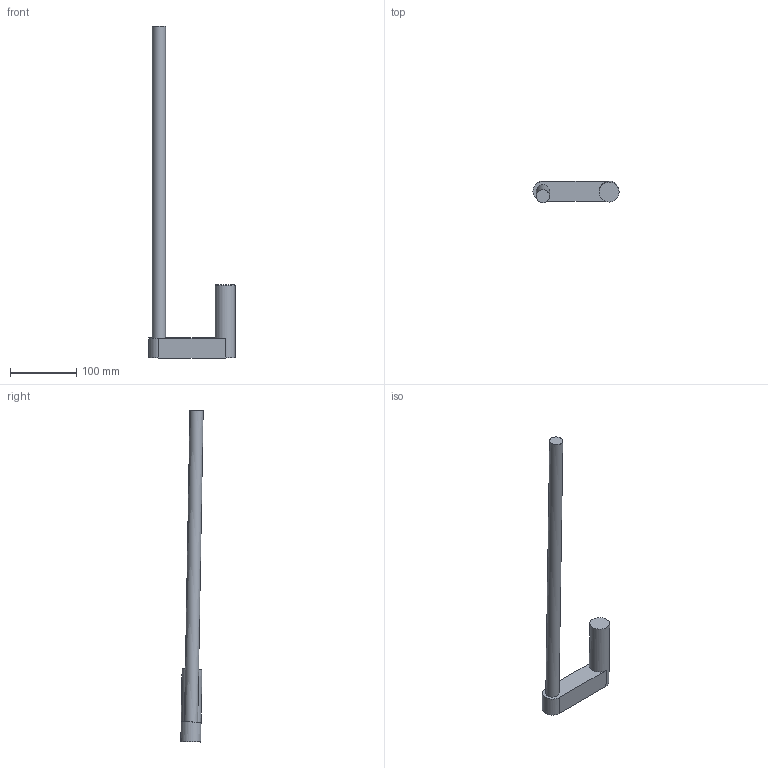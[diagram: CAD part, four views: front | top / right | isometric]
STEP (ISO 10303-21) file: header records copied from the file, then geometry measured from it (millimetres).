
FILE_DESCRIPTION(('FreeCAD Model'),'2;1');
FILE_NAME('Open CASCADE Shape Model','2025-11-19T21:00:49',(''),(''), 'Open CASCADE STEP processor 7.8','FreeCAD','Unknown');
FILE_SCHEMA(('AUTOMOTIVE_DESIGN { 1 0 10303 214 1 1 1 1 }'));
Length unit declared in the file: millimetre
Products named in the file (7): CylindricalJointPendulum; MbD_part_1; MotionSim_masses_1; MbD_ELEMENT_mass_1_1; MbD_part_2; MotionSim_masses_2; MbD_ELEMENT_mass_2_2
Assembly tree (6 placements, depth 4):
  CylindricalJointPendulum
    MbD_part_1
      MotionSim_masses_1
        MbD_ELEMENT_mass_1_1
    MbD_part_2
      MotionSim_masses_2
        MbD_ELEMENT_mass_2_2
Bounding box: 130 x 33.75 x 501.66 mm (x, y, z)
Volume: 315409.3 mm3; surface area: 57081.9 mm2
Topology: 2 solids, 2 shells, 11 faces, 21 edges, 14 vertices
Faces by surface type: plane 7, cylinder 4
Full cylindrical faces by diameter (mm): 20 x2, 30 x1
Entity records: 430 total; most frequent: DIRECTION 66, CARTESIAN_POINT 54, ORIENTED_EDGE 42, AXIS2_PLACEMENT_3D 28, EDGE_CURVE 21, VERTEX_POINT 14, PRODUCT_DEFINITION_SHAPE 13, FACE_BOUND 13
